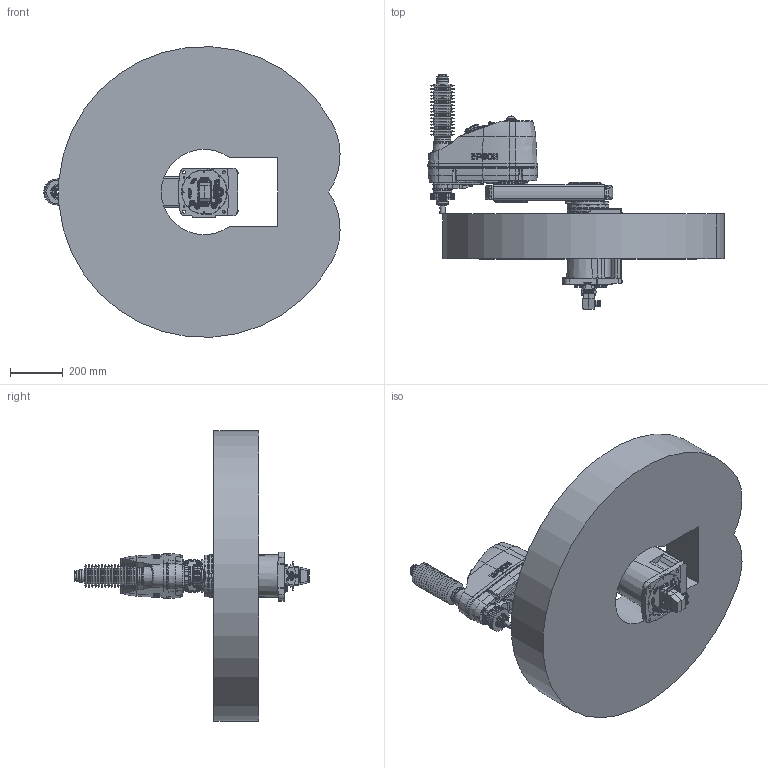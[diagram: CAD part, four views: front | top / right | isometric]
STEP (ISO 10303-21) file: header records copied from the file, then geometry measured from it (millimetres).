
FILE_DESCRIPTION( ( 'STEP AP214' ), '1' );
FILE_NAME( 'C:/Users/9607552/Desktop/GX8-B552PB_langle.stp', '2023-07-07T02:35:54', ( '' ), ( '' ), ' ', 'PARTsolutions', ' ' );
FILE_SCHEMA( ( 'AUTOMOTIVE_DESIGN { 1 0 10303 214 1 1 1 1 }' ) );
Length unit declared in the file: millimetre
Products named in the file (11): GX8-B552PB-AW; _B452PBbasegx8; _B552Sj1arm; _GX8-B552PBj1arm2; _GX8-B552PBj1arm1; _B452P_J2; _B452CZA; _1-B-long; _1-B-short; _Angle-B; _GX8-16-B_WS
Assembly tree (12 placements, depth 2):
  GX8-B552PB-AW
    _B452PBbasegx8
    _B552Sj1arm
    _GX8-B552PBj1arm2  x2
    _GX8-B552PBj1arm1  x2
    _B452P_J2
    _B452CZA
    _1-B-long
    _1-B-short
    _Angle-B
    _GX8-16-B_WS
Bounding box: 1119.76 x 885.6 x 1098.33 mm (x, y, z)
Volume: 162974652.5 mm3; surface area: 3924515.7 mm2
Topology: 12 solids, 17 shells, 3436 faces, 8308 edges, 5400 vertices
Faces by surface type: plane 1696, cylinder 1124, cone 421, torus 153, bspline 37, sphere 5
Full cylindrical faces by diameter (mm): 1 x48, 1.18 x55, 2.459 x4, 3 x32, 3.242 x20, 3.3 x4, 3.9 x4, 4.2 x6, 4.5 x12, 4.8 x5, 4.917 x2, 5.34 x4, 5.5 x25, 6 x5, 6.2 x2, 6.4 x1, 6.647 x4, 6.8 x2, 7 x48, 7.4 x1, 8 x5, 8.5 x6, 9 x24, 10 x18, 10.106 x1, 11 x4, 11.2 x7, 12 x5, 12.25 x1, 13 x3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
Entity records: 122319 total; most frequent: CARTESIAN_POINT 22975, DIRECTION 15212, ORIENTED_EDGE 13734, EDGE_CURVE 6867, AXIS2_PLACEMENT_3D 5940, VERTEX_POINT 4982, EDGE_LOOP 4659, FACE_OUTER_BOUND 3870
